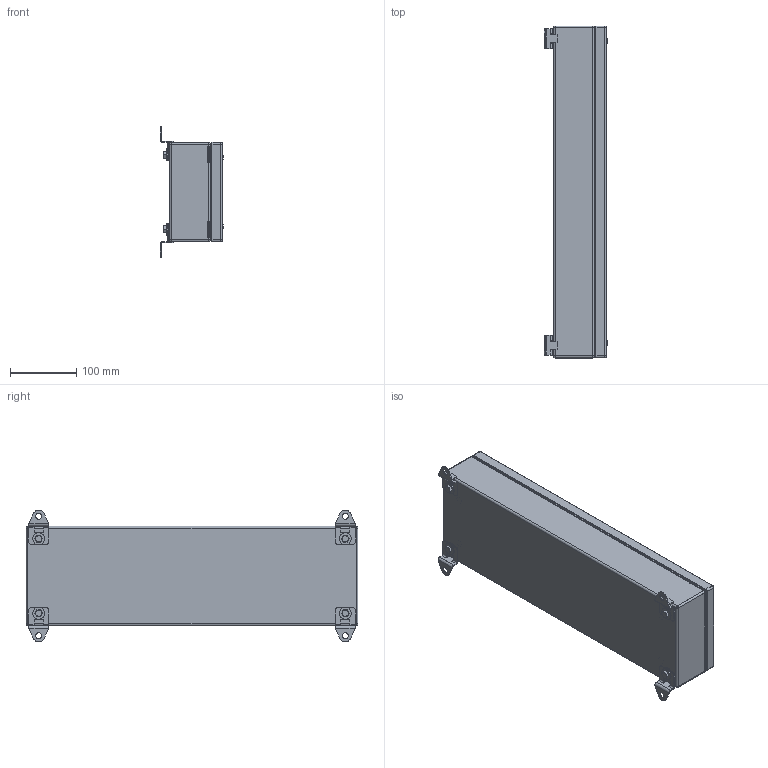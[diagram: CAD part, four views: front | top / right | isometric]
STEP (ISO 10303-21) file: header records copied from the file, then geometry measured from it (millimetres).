
FILE_DESCRIPTION(('STEP AP242'), '1');
FILE_NAME('ÊÊ Êîðîáêà êëåììíàÿ', '', ('UNSPECIFIED'), ('UNSPECIFIED'), 'C3D Converter', 'C3D Toolkit', '');
FILE_SCHEMA(('AP242_MANAGED_MODEL_BASED_3D_ENGINEERING_MIM_LF { 1 0 10303 442 1 1 4 }'));
Length unit declared in the file: millimetre
Products named in the file (22): КК; 510; 520; 521; 530; 531; 540; 541; 203-0655.61; НК.КК; 551;  202-1103.15-00530; 501
Assembly tree (53 placements, depth 4):
  КК
    510
      520
        521
        (unnamed)
        (unnamed)  x4
      530  x4
        531
        (unnamed)
    540
      541
      (unnamed)
      203-0655.61  x4
    НК.КК  x4
      551
      (unnamed)
      (unnamed)
      (unnamed)
      (unnamed)
      (unnamed)
     202-1103.15-00530  x4
    501
    (unnamed)  x4
    (unnamed)  x4
    (unnamed)  x4
    (unnamed)  x4
Bounding box: 95.19 x 500 x 198 mm (x, y, z)
Volume: 628207.7 mm3; surface area: 751981.6 mm2
Topology: 70 solids, 70 shells, 1114 faces, 2514 edges, 1532 vertices
Faces by surface type: plane 640, cylinder 294, cone 102, torus 38, sphere 24, bspline 16
Full cylindrical faces by diameter (mm): 4 x4, 4.134 x4, 4.917 x8, 5 x4, 5.2 x8, 5.8 x4, 6 x10, 6.4 x12, 6.5 x8, 6.6 x4, 6.647 x4, 8 x4, 9 x4, 11 x4, 11.5 x4, 12 x4, 18 x8
Entity records: 18535 total; most frequent: CARTESIAN_POINT 6827, DIRECTION 2073, ORIENTED_EDGE 1820, EDGE_CURVE 910, AXIS2_PLACEMENT_3D 777, VERTEX_POINT 587, EDGE_LOOP 567, LINE 519
